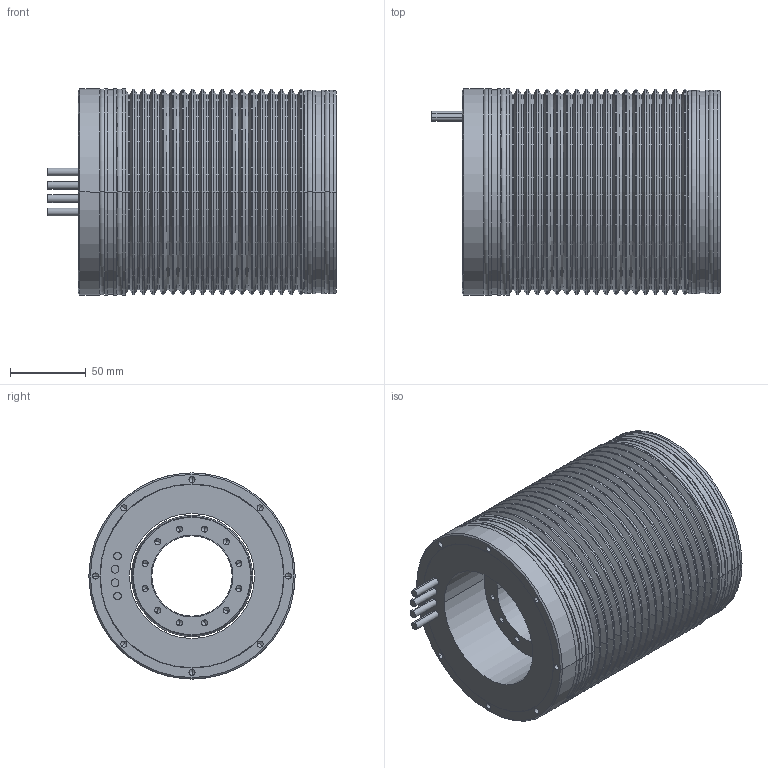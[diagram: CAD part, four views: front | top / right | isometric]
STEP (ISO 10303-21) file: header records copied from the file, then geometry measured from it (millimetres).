
FILE_DESCRIPTION((''),'2;1');
FILE_NAME('TK120-100','2017-10-30T',('stefanos'),(''),'CREO PARAMETRIC BY PTC INC, 2015480','CREO PARAMETRIC BY PTC INC, 2015480','');
FILE_SCHEMA(('CONFIG_CONTROL_DESIGN'));
Length unit declared in the file: millimetre
Products named in the file (1): TK120-100
Bounding box: 190 x 136 x 136 mm (x, y, z)
Volume: 1736003.6 mm3; surface area: 467582.3 mm2
Topology: 9 solids, 9 shells, 437 faces, 938 edges, 506 vertices
Faces by surface type: cylinder 208, cone 160, plane 37, torus 16, revolution 16
Entity records: 12740 total; most frequent: CARTESIAN_POINT 3321, DIRECTION 2174, ORIENTED_EDGE 1748, AXIS2_PLACEMENT_3D 895, EDGE_CURVE 874, VERTEX_POINT 506, EDGE_LOOP 506, CIRCLE 474
